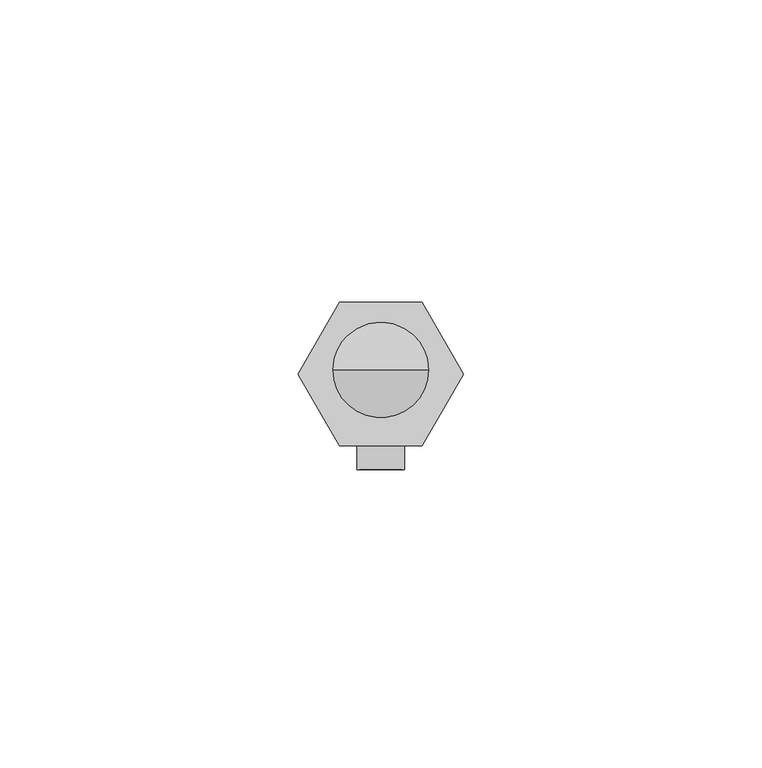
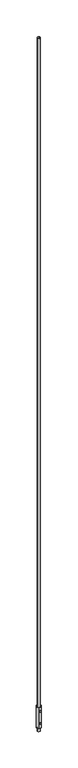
"""IFC4 building model written with IfcOpenShell, lengths in millimetres: proxy geometry, КНС_СтерженьМолниеприемный_DKC : NL4000_Алюминий_4м."""

from ifc_helpers import new_model, si_unit, point, frame, frame_2d, origin, origin_with_axes, origin_2d, place, context, project, spatial, polyline, circle_curve, trimmed, segment, composite_curve, outline, extrude, source, transform, mapped, element, save
from ifc_brep_helpers import plane_surface, cylinder_surface, revolved_surface, advanced_brep


def security_devices_7bfe0d6e(model_context):
    return source(origin(), model_context, "Body", "SolidModel", [
        advanced_brep(
        [(-8.0, 0.0, 140.0), (8.0, 0.0, 140.0), (8.0, 0.0, 3995.3811978), (-8.0, 0.0, 3995.3811978), (0.0, 0.0, 4000.0)],
        [
            (0, 1, circle_curve(frame((0.0, 0.0, 140.0), z_axis=(0.0, 0.0, -1.0), x_axis=(1.0, 0.0, 0.0)), 8.0)),
            (1, 0, circle_curve(frame((0.0, 0.0, 140.0), z_axis=(0.0, 0.0, -1.0), x_axis=(1.0, 0.0, 0.0)), 8.0)),
            (1, 2),
            (2, 3, circle_curve(frame((0.0, 0.0, 3995.3811978), z_axis=(0.0, 0.0, -1.0), x_axis=(1.0, 0.0, 0.0)), 8.0)),
            (3, 0),
            (3, 2, circle_curve(frame((0.0, 0.0, 3995.3811978), z_axis=(0.0, 0.0, -1.0), x_axis=(1.0, 0.0, 0.0)), 8.0)),
            (3, 4),
            (4, 2),
        ],
        [
            plane_surface(frame((8.0, 0.0, 140.0), z_axis=(0.0, 0.0, -1.0), x_axis=(0.0, -1.0, 0.0))),
            cylinder_surface(frame((0.0, 0.0, 140.0), z_axis=(0.0, 0.0, 1.0), x_axis=(1.0, 0.0, 0.0)), 8.0),
            revolved_surface(polyline([(12.9903811, 0.0, 3992.5), (0.0, 0.0, 4000.0)]), (0.0, 0.0, 6938.9550208), (0.0, 0.0, 1.0)),
        ],
        [
            (0, [[1, 2]]),
            (1, [[-2, 3, 4, 5]]),
            (1, [[-1, -5, 6, -3]]),
            (2, [[7, 8, -6]]),
            (2, [[-7, -4, -8]]),
        ],
    ),
        extrude(outline(composite_curve([segment(trimmed(circle_curve(frame_2d((120.0, 0.0)), 4.0), [point((120.0, -4.0))], [point((120.0, 4.0))], False, "CARTESIAN"), True, "CONTINUOUS"), segment(trimmed(circle_curve(frame_2d((120.0, 0.0)), 4.0), [point((120.0, 4.0))], [point((120.0, -4.0))], False, "CARTESIAN"), True, "CONTINUOUS")], self_intersect=False)), frame((0.0, -16.0, 0.0), z_axis=(0.0, 1.0, 0.0), x_axis=(0.0, 0.0, 1.0)), (0.0, 0.0, 1.0), 4.0),
        extrude(outline(composite_curve([segment(trimmed(circle_curve(frame_2d((50.0, 0.0)), 4.0), [point((50.0, -4.0))], [point((50.0, 4.0))], False, "CARTESIAN"), True, "CONTINUOUS"), segment(trimmed(circle_curve(frame_2d((50.0, 0.0)), 4.0), [point((50.0, 4.0))], [point((50.0, -4.0))], False, "CARTESIAN"), True, "CONTINUOUS")], self_intersect=False)), frame((0.0, -16.0, 0.0), z_axis=(0.0, 1.0, 0.0), x_axis=(0.0, 0.0, 1.0)), (0.0, 0.0, 1.0), 4.0),
        extrude(outline(polyline([(-13.8564065, 0.0), (-6.9282032, 12.0), (6.9282032, 12.0), (13.8564065, 0.0), (6.9282032, -12.0), (-6.9282032, -12.0), (-13.8564065, 0.0)])), frame((0.0, 0.0, 20.0), z_axis=(0.0, 0.0, 1.0), x_axis=(1.0, 0.0, 0.0)), (0.0, 0.0, 1.0), 120.0),
        extrude(outline(composite_curve([segment(trimmed(circle_curve(origin_2d(), 8.0), [point((-8.0, 0.0))], [point((8.0, 0.0))], False, "CARTESIAN"), True, "CONTINUOUS"), segment(trimmed(circle_curve(origin_2d(), 8.0), [point((8.0, 0.0))], [point((-8.0, 0.0))], False, "CARTESIAN"), True, "CONTINUOUS")], self_intersect=False)), origin_with_axes(), (0.0, 0.0, 1.0), 20.0),
    ])


if __name__ == "__main__":
    model = new_model("IFC4")
    model_context = context("Model", 3, world=origin())
    ifc_project = project(units=[si_unit("LENGTHUNIT", "METRE", prefix="MILLI")], contexts=[model_context])
    site = spatial("IfcSite", under=ifc_project)
    building = spatial("IfcBuilding", under=site)
    placement = place(None, origin())
    security_devices_shape = security_devices_7bfe0d6e(model_context)
    element("IfcBuildingElementProxy", 1, Name="КНС_СтерженьМолниеприемный_DKC : NL4000_Алюминий_4м", ObjectType="КНС_СтерженьМолниеприемный_DKC : NL4000_Алюминий_4м", at=placement, inside=building, context=model_context, shape_type="MappedRepresentation", body=[
        mapped(security_devices_shape, transform((0.0, 0.0, 0.0), x_axis=(1.0, 0.0, 0.0), y_axis=(0.0, 1.0, 0.0), z_axis=(0.0, 0.0, 1.0))),
    ])
    save(model, "model.ifc")
